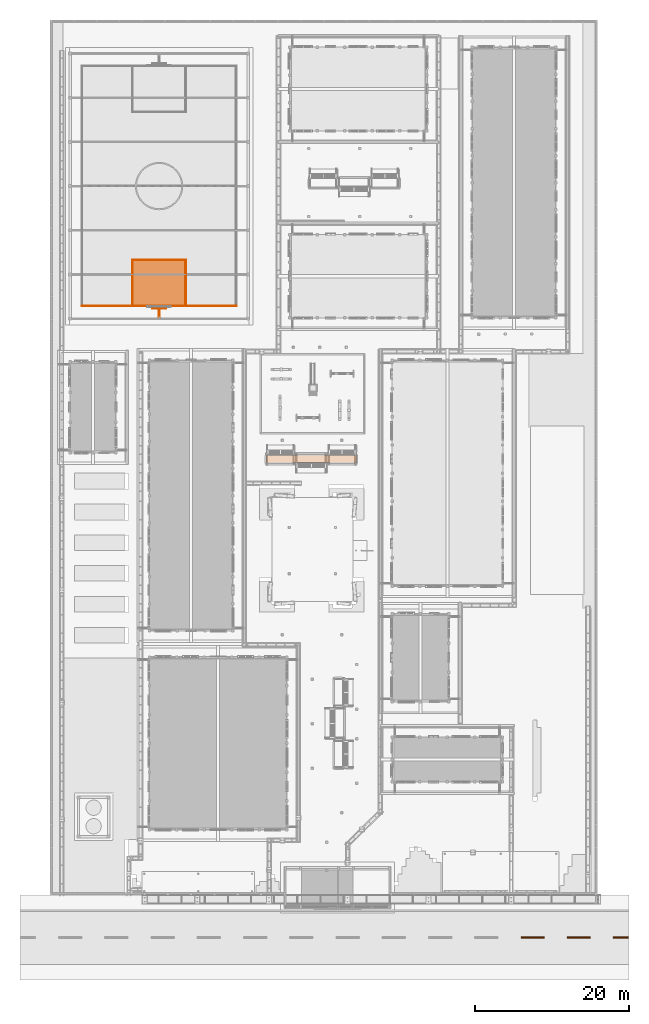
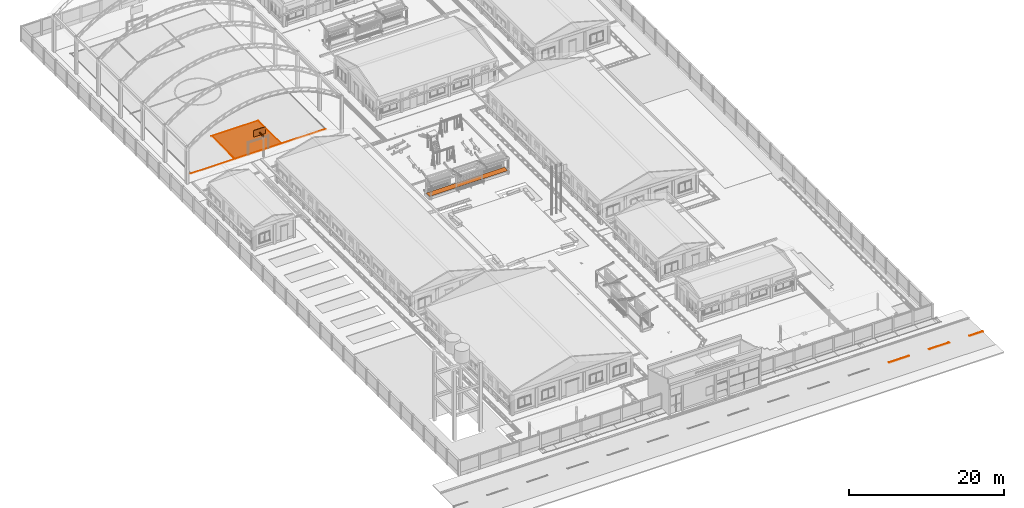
# One storey, part 148 of 151: 11 proxies.
"""IFC2X3 building model written with IfcOpenShell, lengths in metres."""

from ifc_helpers import new_model, si_unit, origin, origin_with_axes, place, context, subcontext, project, spatial, faceted_brep, element, save


model = new_model("IFC2X3")

# Units and contexts
model_context = context("Model", 3, precision=1e-05, world=origin_with_axes())
body_context = subcontext(model_context, "Body", "Model", "MODEL_VIEW")
ifc_project = project(units=[si_unit("LENGTHUNIT", "METRE"), si_unit("AREAUNIT", "SQUARE_METRE"), si_unit("VOLUMEUNIT", "CUBIC_METRE"), si_unit("PLANEANGLEUNIT", "RADIAN")], contexts=[model_context])

# Site, building, storey
site_placement = place(None, origin_with_axes())
site = spatial("IfcSite", under=ifc_project, at=site_placement, Name="Predio Los Mangos - Morales, San Martín", CompositionType="ELEMENT")
building_placement = place(site_placement, origin())
building = spatial("IfcBuilding", under=site, at=building_placement, Name="Hogar de Refugio Temporal", CompositionType="ELEMENT")
storey_placement = place(building_placement, origin())
storey = spatial("IfcBuildingStorey", under=building, at=storey_placement, Name="NIVEL 1 (NPT +0.00)", CompositionType="ELEMENT", Elevation=0.0)

# Proxies
proxy_1_placement = place(storey_placement, origin())
element("IfcBuildingElementProxy", 1, at=proxy_1_placement, inside=storey, Name="linea_carril", ObjectType="Losa deportiva y vía", context=body_context, shape_type="Brep", body=[
    faceted_brep([(62.0, 12.22, 0.02), (62.0, 12.38, 0.02), (65.0, 12.38, 0.02), (65.0, 12.22, 0.02), (62.0, 12.22, 0.025), (65.0, 12.22, 0.025), (65.0, 12.38, 0.025), (62.0, 12.38, 0.025)], [[[0, 1, 2, 3]], [[4, 5, 6, 7]], [[0, 3, 5, 4]], [[3, 2, 6, 5]], [[2, 1, 7, 6]], [[1, 0, 4, 7]]]),
])
proxy_2_placement = place(storey_placement, origin())
element("IfcBuildingElementProxy", 2, at=proxy_2_placement, inside=storey, Name="linea_carril", ObjectType="Losa deportiva y vía", context=body_context, shape_type="Brep", body=[
    faceted_brep([(68.0, 12.22, 0.02), (68.0, 12.38, 0.02), (71.0, 12.38, 0.02), (71.0, 12.22, 0.02), (68.0, 12.22, 0.025), (71.0, 12.22, 0.025), (71.0, 12.38, 0.025), (68.0, 12.38, 0.025)], [[[0, 1, 2, 3]], [[4, 5, 6, 7]], [[0, 3, 5, 4]], [[3, 2, 6, 5]], [[2, 1, 7, 6]], [[1, 0, 4, 7]]]),
])
proxy_3_placement = place(storey_placement, origin())
element("IfcBuildingElementProxy", 3, at=proxy_3_placement, inside=storey, Name="linea_carril", ObjectType="Losa deportiva y vía", context=body_context, shape_type="Brep", body=[
    faceted_brep([(74.0, 12.22, 0.02), (74.0, 12.38, 0.02), (76.0, 12.38, 0.02), (76.0, 12.22, 0.02), (74.0, 12.22, 0.025), (76.0, 12.22, 0.025), (76.0, 12.38, 0.025), (74.0, 12.38, 0.025)], [[[0, 1, 2, 3]], [[4, 5, 6, 7]], [[0, 3, 5, 4]], [[3, 2, 6, 5]], [[2, 1, 7, 6]], [[1, 0, 4, 7]]]),
])
proxy_4_placement = place(storey_placement, origin())
element("IfcBuildingElementProxy", 4, at=proxy_4_placement, inside=storey, Name="linea_cancha", ObjectType="Losa deportiva y vía", context=body_context, shape_type="Brep", body=[
    faceted_brep([(5.0, 94.2, 0.125), (5.0, 94.28, 0.125), (25.1, 94.28, 0.125), (25.1, 94.2, 0.125), (5.0, 94.2, 0.127), (25.1, 94.2, 0.127), (25.1, 94.28, 0.127), (5.0, 94.28, 0.127)], [[[0, 1, 2, 3]], [[4, 5, 6, 7]], [[0, 3, 5, 4]], [[3, 2, 6, 5]], [[2, 1, 7, 6]], [[1, 0, 4, 7]]]),
])
proxy_5_placement = place(storey_placement, origin())
element("IfcBuildingElementProxy", 5, at=proxy_5_placement, inside=storey, Name="area", ObjectType="Losa deportiva y vía", context=body_context, shape_type="Brep", body=[
    faceted_brep([(11.55, 94.2, 0.125), (11.55, 100.2, 0.125), (18.55, 100.2, 0.125), (18.55, 94.2, 0.125), (11.55, 94.2, 0.127), (18.55, 94.2, 0.127), (18.55, 100.2, 0.127), (11.55, 100.2, 0.127)], [[[0, 1, 2, 3]], [[4, 5, 6, 7]], [[0, 3, 5, 4]], [[3, 2, 6, 5]], [[2, 1, 7, 6]], [[1, 0, 4, 7]]]),
])
proxy_6_placement = place(storey_placement, origin())
element("IfcBuildingElementProxy", 6, at=proxy_6_placement, inside=storey, Name="linea_area", ObjectType="Losa deportiva y vía", context=body_context, shape_type="Brep", body=[
    faceted_brep([(11.55, 94.2, 0.127), (11.55, 100.2, 0.127), (11.63, 100.2, 0.127), (11.63, 94.2, 0.127), (11.55, 94.2, 0.129), (11.63, 94.2, 0.129), (11.63, 100.2, 0.129), (11.55, 100.2, 0.129)], [[[0, 1, 2, 3]], [[4, 5, 6, 7]], [[0, 3, 5, 4]], [[3, 2, 6, 5]], [[2, 1, 7, 6]], [[1, 0, 4, 7]]]),
])
proxy_7_placement = place(storey_placement, origin())
element("IfcBuildingElementProxy", 7, at=proxy_7_placement, inside=storey, Name="linea_area", ObjectType="Losa deportiva y vía", context=body_context, shape_type="Brep", body=[
    faceted_brep([(18.47, 94.2, 0.127), (18.47, 100.2, 0.127), (18.55, 100.2, 0.127), (18.55, 94.2, 0.127), (18.47, 94.2, 0.129), (18.55, 94.2, 0.129), (18.55, 100.2, 0.129), (18.47, 100.2, 0.129)], [[[0, 1, 2, 3]], [[4, 5, 6, 7]], [[0, 3, 5, 4]], [[3, 2, 6, 5]], [[2, 1, 7, 6]], [[1, 0, 4, 7]]]),
])
proxy_8_placement = place(storey_placement, origin())
element("IfcBuildingElementProxy", 8, at=proxy_8_placement, inside=storey, Name="linea_area", ObjectType="Losa deportiva y vía", context=body_context, shape_type="Brep", body=[
    faceted_brep([(11.55, 100.16, 0.127), (11.55, 100.24, 0.127), (18.55, 100.24, 0.127), (18.55, 100.16, 0.127), (11.55, 100.16, 0.129), (18.55, 100.16, 0.129), (18.55, 100.24, 0.129), (11.55, 100.24, 0.129)], [[[0, 1, 2, 3]], [[4, 5, 6, 7]], [[0, 3, 5, 4]], [[3, 2, 6, 5]], [[2, 1, 7, 6]], [[1, 0, 4, 7]]]),
])
proxy_9_placement = place(storey_placement, origin())
element("IfcBuildingElementProxy", 9, at=proxy_9_placement, inside=storey, Name="tablero", ObjectType="Losa deportiva y vía", context=body_context, shape_type="Brep", body=[
    faceted_brep([(14.15, 93.88, 2.9), (14.15, 93.92, 2.9), (15.95, 93.92, 2.9), (15.95, 93.88, 2.9), (14.15, 93.88, 3.95), (15.95, 93.88, 3.95), (15.95, 93.92, 3.95), (14.15, 93.92, 3.95)], [[[0, 1, 2, 3]], [[4, 5, 6, 7]], [[0, 3, 5, 4]], [[3, 2, 6, 5]], [[2, 1, 7, 6]], [[1, 0, 4, 7]]]),
])
proxy_10_placement = place(storey_placement, origin())
element("IfcBuildingElementProxy", 10, at=proxy_10_placement, inside=storey, Name="brazo", ObjectType="Losa deportiva y vía", context=body_context, shape_type="Brep", body=[
    faceted_brep([(15.0, 92.8, 3.3), (15.0, 93.9, 3.3), (15.1, 93.9, 3.3), (15.1, 92.8, 3.3), (15.0, 92.8, 3.4), (15.1, 92.8, 3.4), (15.1, 93.9, 3.4), (15.0, 93.9, 3.4)], [[[0, 1, 2, 3]], [[4, 5, 6, 7]], [[0, 3, 5, 4]], [[3, 2, 6, 5]], [[2, 1, 7, 6]], [[1, 0, 4, 7]]]),
])
proxy_11_placement = place(storey_placement, origin())
element("IfcBuildingElementProxy", 11, at=proxy_11_placement, inside=storey, Name="pasto_jardinera_1", ObjectType="Área verde", context=body_context, shape_type="Brep", body=[
    faceted_brep([(28.955, 74.85, 0.455), (28.955, 73.95, 0.455), (40.655, 73.95, 0.455), (40.655, 74.85, 0.455), (28.955, 73.95, 0.435), (40.655, 73.95, 0.435), (28.955, 74.85, 0.435), (40.655, 74.85, 0.435)], [[[0, 1, 2, 3]], [[2, 1, 4, 5]], [[6, 7, 5, 4]], [[3, 2, 5, 7]], [[0, 3, 7, 6]], [[1, 0, 6, 4]]]),
])

save(model, "model.ifc")
